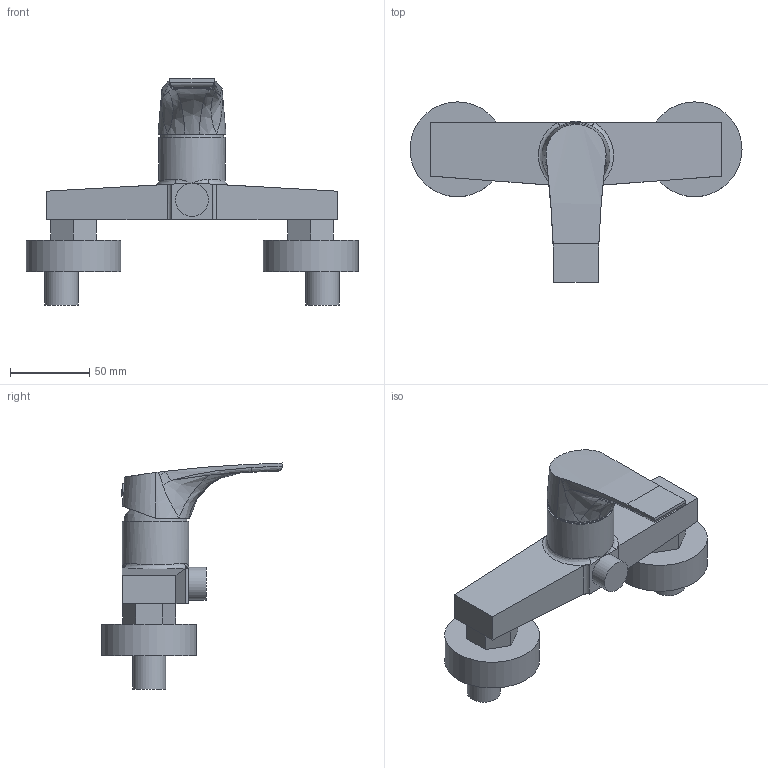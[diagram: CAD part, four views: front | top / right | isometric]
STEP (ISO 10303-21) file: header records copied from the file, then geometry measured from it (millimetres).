
FILE_DESCRIPTION(/* description */ ('SIGMA Bateria natryskowa ścienna (bez akcesoriów)'),/* implementation_level */ '2;1');
FILE_NAME(/* name */ 'C:\Nextcloud\02_biblioteki_cad\Valvex\Projekt\PROJECTS\Eksport\ETAP 4\2456120\2456120.stp',/* time_stamp */ '2021-08-09T10:49:44+02:00',/* author */ ('Cadventure'),/* organization */ (''),/* preprocessor_version */ 'ST-DEVELOPER v18.1',/* originating_system */ 'Autodesk Inventor 2020',/* authorisation */ '');
FILE_SCHEMA (('AUTOMOTIVE_DESIGN { 1 0 10303 214 3 1 1 }'));
Length unit declared in the file: millimetre
Products named in the file (1): 2456120
Bounding box: 210 x 114.25 x 142.96 mm (x, y, z)
Volume: 390724.2 mm3; surface area: 56976.8 mm2
Topology: 1 solids, 1 shells, 71 faces, 181 edges, 115 vertices
Faces by surface type: plane 34, bspline 23, cylinder 14
Full cylindrical faces by diameter (mm): 8 x1, 21 x3, 42 x1, 60 x2
Entity records: 3255 total; most frequent: CARTESIAN_POINT 1536, ORIENTED_EDGE 350, DIRECTION 293, EDGE_CURVE 175, VERTEX_POINT 115, AXIS2_PLACEMENT_3D 107, EDGE_LOOP 80, LINE 79
